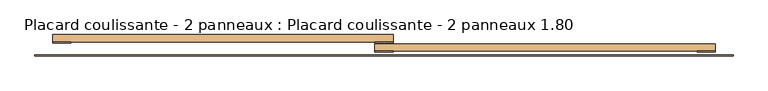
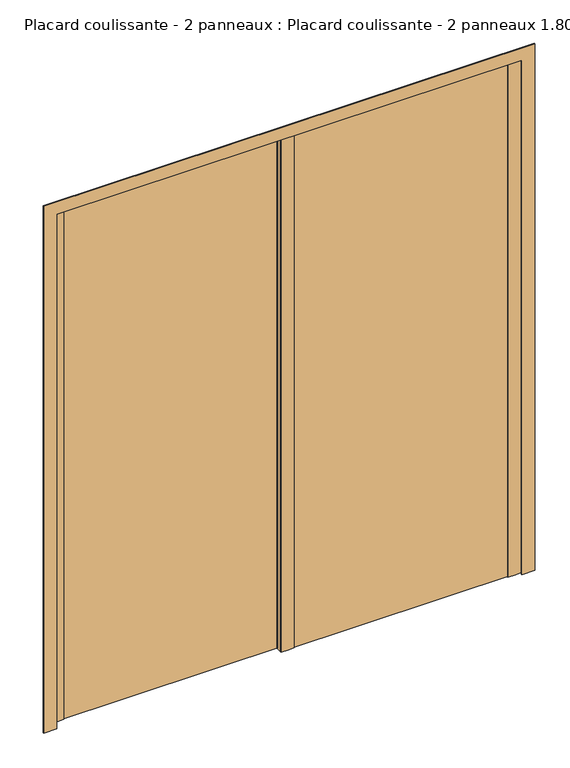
"""IFC4 building model written with IfcOpenShell, lengths in millimetres: door geometry, Placard coulissante - 2 panneaux : Placard coulissante - 2 panneaux 1.80."""

from ifc_helpers import new_model, si_unit, point, frame, frame_2d, origin, origin_with_axes, place, context, project, spatial, polyline, circle_curve, trimmed, segment, composite_curve, outline, extrude, source, transform, mapped, element, save


def placard_coulissante_2_panneaux_placard_coulissante_2_2c30b1b5(model_context):
    return source(origin(), model_context, "Body", "SweptSolid", [
        extrude(outline(composite_curve([segment(polyline([(900.0, -25.0), (900.0, -27.0)]), True, "CONTINUOUS"), segment(trimmed(circle_curve(frame_2d((875.0, 186.8603852)), 215.3166607), [point((900.0, -27.0))], [point((850.0, -27.0))], False, "CARTESIAN"), True, "CONTINUOUS"), segment(polyline([(850.0, -27.0), (850.0, -25.0), (900.0, -25.0)]), True, "CONTINUOUS")], self_intersect=False)), origin_with_axes(), (0.0, 0.0, 1.0), 2100.0),
        extrude(outline(composite_curve([segment(polyline([(25.0, -25.0), (25.0, -27.0)]), True, "CONTINUOUS"), segment(trimmed(circle_curve(frame_2d((0.0, 186.8603852)), 215.3166607), [point((25.0, -27.0))], [point((-25.0, -27.0))], False, "CARTESIAN"), True, "CONTINUOUS"), segment(polyline([(-25.0, -27.0), (-25.0, -25.0), (25.0, -25.0)]), True, "CONTINUOUS")], self_intersect=False)), origin_with_axes(), (0.0, 0.0, 1.0), 2100.0),
        extrude(outline(composite_curve([segment(polyline([(25.0, 0.0), (25.0, -2.0)]), True, "CONTINUOUS"), segment(trimmed(circle_curve(frame_2d((0.0, 211.8603852)), 215.3166607), [point((25.0, -2.0))], [point((-25.0, -2.0))], False, "CARTESIAN"), True, "CONTINUOUS"), segment(polyline([(-25.0, -2.0), (-25.0, 0.0), (25.0, 0.0)]), True, "CONTINUOUS")], self_intersect=False)), origin_with_axes(), (0.0, 0.0, 1.0), 2100.0),
        extrude(outline(composite_curve([segment(polyline([(-850.0, 0.0), (-850.0, -2.0)]), True, "CONTINUOUS"), segment(trimmed(circle_curve(frame_2d((-875.0, 211.8603852)), 215.3166607), [point((-850.0, -2.0))], [point((-900.0, -2.0))], False, "CARTESIAN"), True, "CONTINUOUS"), segment(polyline([(-900.0, -2.0), (-900.0, 0.0), (-850.0, 0.0)]), True, "CONTINUOUS")], self_intersect=False)), origin_with_axes(), (0.0, 0.0, 1.0), 2100.0),
        extrude(outline(polyline([(0.0, -948.0), (0.0, -898.0), (2098.0, -898.0), (2098.0, 898.0), (0.0, 898.0), (0.0, 948.0), (2148.0, 948.0), (2148.0, -948.0), (0.0, -948.0)])), frame((0.0, -38.0, 0.0), z_axis=(0.0, 1.0, 0.0), x_axis=(0.0, 0.0, 1.0)), (0.0, 0.0, 1.0), 3.0),
        extrude(outline(polyline([(900.0, -25.0), (-25.0, -25.0), (-25.0, -5.0), (900.0, -5.0), (900.0, -25.0)])), origin_with_axes(), (0.0, 0.0, 1.0), 2100.0),
        extrude(outline(polyline([(25.0, 0.0), (-900.0, 0.0), (-900.0, 20.0), (25.0, 20.0), (25.0, 0.0)])), origin_with_axes(), (0.0, 0.0, 1.0), 2100.0),
    ])


if __name__ == "__main__":
    model = new_model("IFC4")
    model_context = context("Model", 3, world=origin())
    ifc_project = project(units=[si_unit("LENGTHUNIT", "METRE", prefix="MILLI")], contexts=[model_context])
    site = spatial("IfcSite", under=ifc_project)
    building = spatial("IfcBuilding", under=site)
    placement = place(None, origin())
    placard_coulissante_2_panneaux_placard_coulissante_2_shape = placard_coulissante_2_panneaux_placard_coulissante_2_2c30b1b5(model_context)
    element("IfcDoor", 1, ObjectType="Placard coulissante - 2 panneaux : Placard coulissante - 2 panneaux 1.80", at=placement, inside=building, context=model_context, shape_type="MappedRepresentation", body=[
        mapped(placard_coulissante_2_panneaux_placard_coulissante_2_shape, transform((0.0, 0.0, 0.0), x_axis=(1.0, 0.0, 0.0), y_axis=(0.0, 1.0, 0.0), z_axis=(0.0, 0.0, 1.0))),
    ])
    save(model, "model.ifc")
